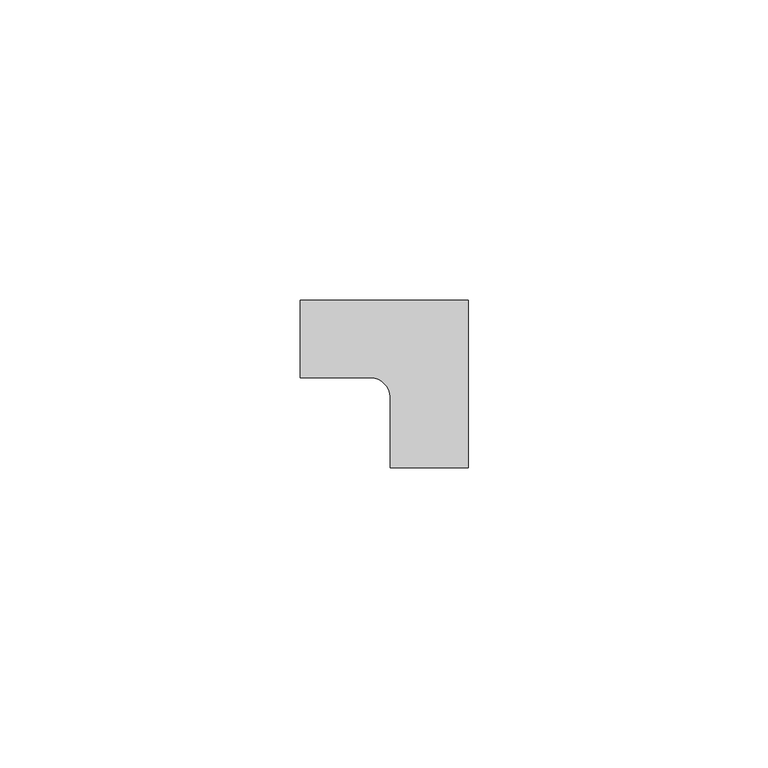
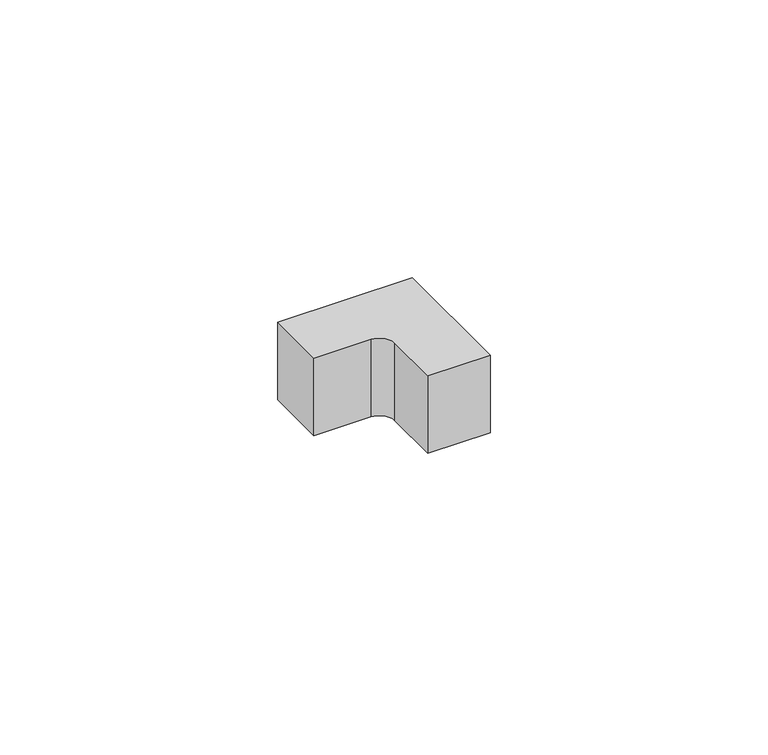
"""IFC4 building model written with IfcOpenShell, lengths in millimetres: proxy geometry, Внутренний_угол_КМВ : Внутренний угол КМВ 15х10."""

from ifc_helpers import new_model, si_unit, point, frame_2d, origin, origin_with_axes, place, context, project, spatial, polyline, circle_curve, trimmed, segment, composite_curve, outline, extrude, source, transform, mapped, element, save


def generic_models_74339a0b(model_context):
    return source(origin(), model_context, "Body", "SweptSolid", [
        extrude(outline(composite_curve([segment(polyline([(-15.0, 0.0), (-15.0, 12.9885299), (13.0, 12.9885299), (13.0, -15.0), (0.0, -15.0), (0.0, -3.184906)]), True, "CONTINUOUS"), segment(trimmed(circle_curve(frame_2d((-3.184906, -3.184906)), 3.184906), [point((0.0, -3.184906))], [point((-3.184906, 0.0))], True, "CARTESIAN"), True, "CONTINUOUS"), segment(polyline([(-3.184906, 0.0), (-15.0, 0.0)]), True, "CONTINUOUS")], self_intersect=False)), origin_with_axes(), (0.0, 0.0, 1.0), 17.0303508),
    ])


if __name__ == "__main__":
    model = new_model("IFC4")
    model_context = context("Model", 3, world=origin())
    ifc_project = project(units=[si_unit("LENGTHUNIT", "METRE", prefix="MILLI")], contexts=[model_context])
    site = spatial("IfcSite", under=ifc_project)
    building = spatial("IfcBuilding", under=site)
    placement = place(None, origin())
    generic_models_shape = generic_models_74339a0b(model_context)
    element("IfcBuildingElementProxy", 1, Name="Внутренний_угол_КМВ : Внутренний угол КМВ 15х10", ObjectType="Внутренний_угол_КМВ : Внутренний угол КМВ 15х10", at=placement, inside=building, context=model_context, shape_type="MappedRepresentation", body=[
        mapped(generic_models_shape, transform((0.0, 0.0, 0.0), x_axis=(1.0, 0.0, 0.0), y_axis=(0.0, 1.0, 0.0), z_axis=(0.0, 0.0, 1.0))),
    ])
    save(model, "model.ifc")
